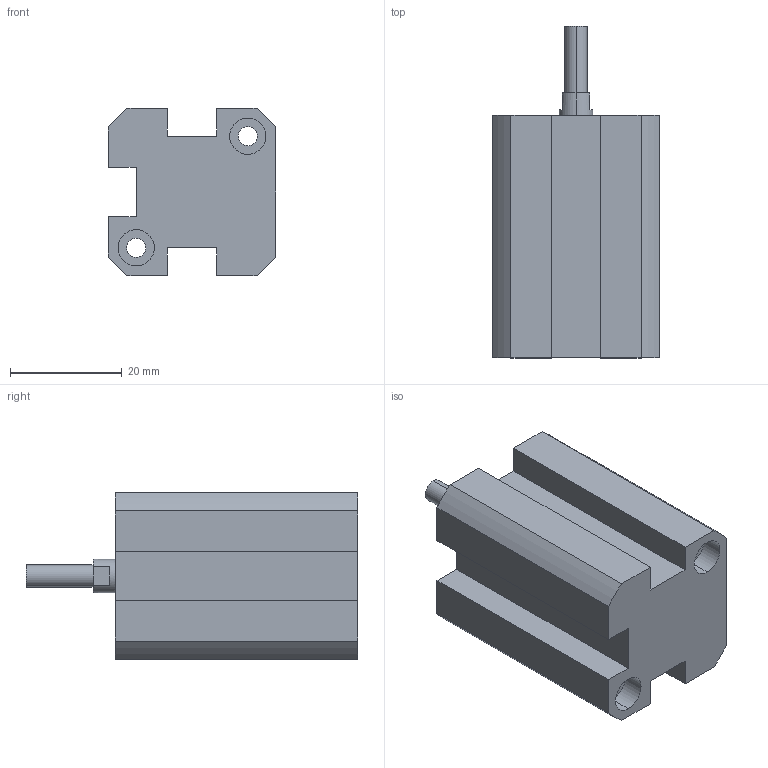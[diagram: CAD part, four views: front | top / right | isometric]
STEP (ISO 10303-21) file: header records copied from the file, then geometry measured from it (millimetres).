
FILE_DESCRIPTION (( 'STEP AP203' ), '1' );
FILE_NAME ('XG#M1-16D-10.STEP', '2016-05-24T02:06:50', ( '' ), ( '' ), 'SwSTEP 2.0', 'SolidWorks 2014', '' );
FILE_SCHEMA (( 'CONFIG_CONTROL_DESIGN' ));
Length unit declared in the file: millimetre
Products named in the file (1): XG#M1-16D-10
Bounding box: 30 x 59.5 x 30 mm (x, y, z)
Volume: 31116.1 mm3; surface area: 9307.5 mm2
Topology: 1 solids, 1 shells, 72 faces, 177 edges, 116 vertices
Faces by surface type: cylinder 37, plane 33, cone 2
Entity records: 2227 total; most frequent: DIRECTION 400, CARTESIAN_POINT 364, ORIENTED_EDGE 350, EDGE_CURVE 175, AXIS2_PLACEMENT_3D 152, VERTEX_POINT 116, VECTOR 96, LINE 96
